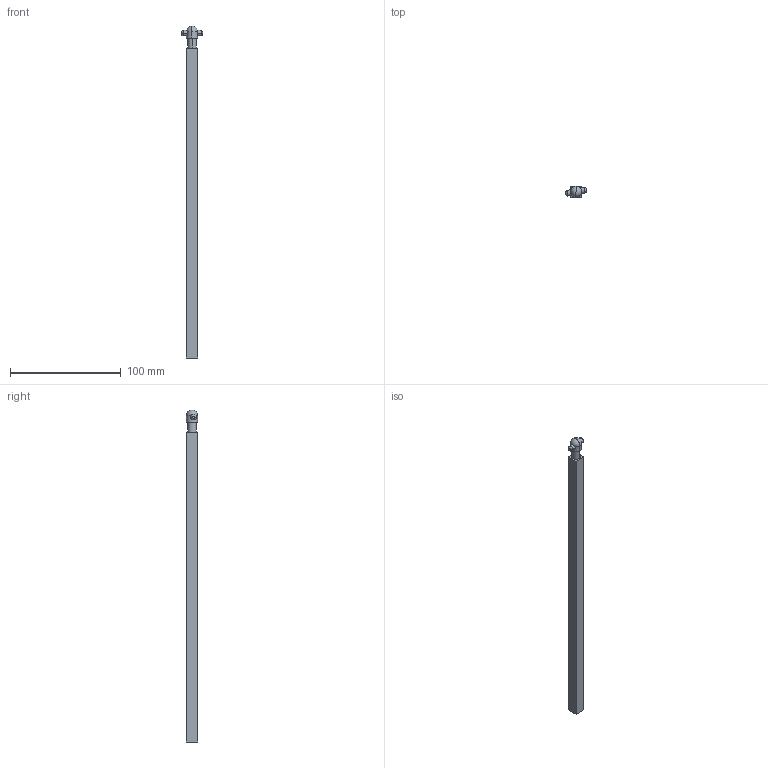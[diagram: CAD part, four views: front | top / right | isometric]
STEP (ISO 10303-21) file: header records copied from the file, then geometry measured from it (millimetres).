
FILE_DESCRIPTION((''),'2;1');
FILE_NAME('5TZD_203_6022_ASM','2025-05-27T10:53:05',('gaoleixiao'),(''),'CREO PARAMETRIC BY PTC INC, 2020354','CREO PARAMETRIC BY PTC INC, 2020354','');
FILE_SCHEMA(('CONFIG_CONTROL_DESIGN'));
Length unit declared in the file: millimetre
Products named in the file (3): 8TZD_203_6055; 8TZD_206_6112; 5TZD_203_6022_ASM
Assembly tree (2 placements, depth 2):
  5TZD_203_6022_ASM
    8TZD_203_6055
    8TZD_206_6112
Bounding box: 19.1 x 10 x 300 mm (x, y, z)
Volume: 29355.5 mm3; surface area: 12370.9 mm2
Topology: 2 solids, 2 shells, 23 faces, 54 edges, 33 vertices
Faces by surface type: plane 9, cylinder 8, bspline 4, sphere 2
Entity records: 952 total; most frequent: CARTESIAN_POINT 355, DIRECTION 116, ORIENTED_EDGE 104, EDGE_CURVE 52, AXIS2_PLACEMENT_3D 48, VERTEX_POINT 33, EDGE_LOOP 25, CIRCLE 24
